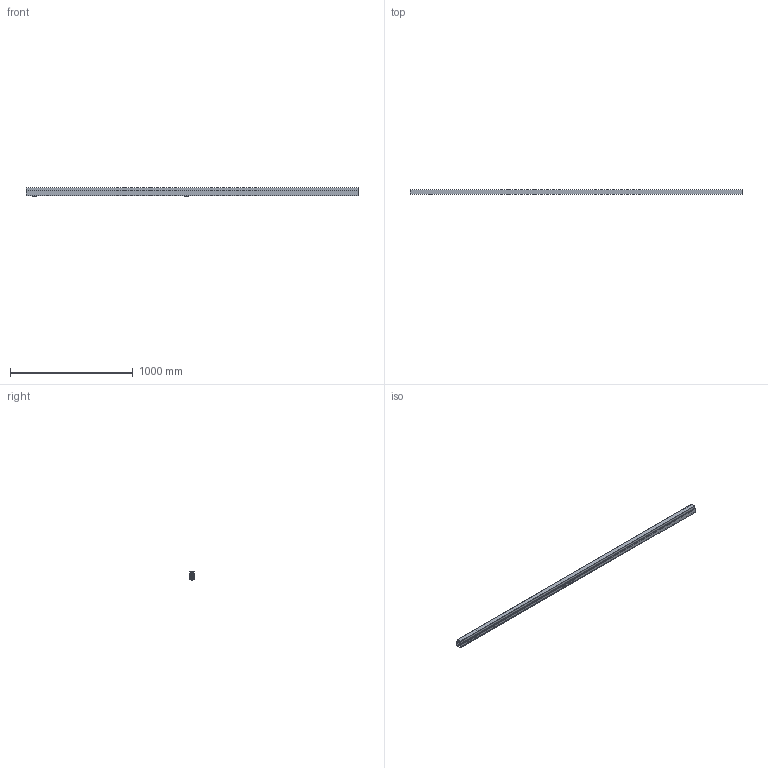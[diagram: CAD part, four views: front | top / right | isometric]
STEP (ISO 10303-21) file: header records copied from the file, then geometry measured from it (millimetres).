
FILE_DESCRIPTION(('STEP AP242'),'1');
FILE_NAME('OPO_65.084.02.stp','2026-02-23T17:27:49',(' '),(' '),'Spatial InterOp 3D',' ',' ');
FILE_SCHEMA(('AP242_MANAGED_MODEL_BASED_3D_ENGINEERING_MIM_LF {1 0 10303 442 1 1 4}'));
Length unit declared in the file: millimetre
Products named in the file (11): Zeichnung1; OPO_65.084.02_Magnetantrieb_Teil1; OPO_65.084.02_Magnetantrieb_Teil2; OPO_65.084.02_Magnetantrieb_Teil3; OPO_65.084.02_Magnetantrieb_Teil4; OPO_65.084.02_Magnetantrieb_Teil5; OPO_65.084.02_Magnetantrieb_Teil6; OPO_65.084.02_Magnetantrieb_Teil7; OPO_65.084.02_Magnetantrieb_Teil8; OPO_65.084.32; AutoCreatedBlock_10E
Assembly tree (11 placements, depth 2):
  Zeichnung1
    OPO_65.084.02_Magnetantrieb_Teil1
    OPO_65.084.02_Magnetantrieb_Teil2
    OPO_65.084.02_Magnetantrieb_Teil3
    OPO_65.084.02_Magnetantrieb_Teil4
    OPO_65.084.02_Magnetantrieb_Teil5  x2
    OPO_65.084.02_Magnetantrieb_Teil6
    OPO_65.084.02_Magnetantrieb_Teil7
    OPO_65.084.02_Magnetantrieb_Teil8
    OPO_65.084.32
    AutoCreatedBlock_10E
Bounding box: 2700 x 40 x 69.6 mm (x, y, z)
Volume: 2408337.3 mm3; surface area: 1407332.3 mm2
Topology: 54 solids, 54 shells, 1255 faces, 3309 edges, 2194 vertices
Faces by surface type: plane 772, cylinder 481, cone 2
Entity records: 46327 total; most frequent: CARTESIAN_POINT 6830, DIRECTION 6301, ORIENTED_EDGE 6158, EDGE_CURVE 3079, LINE 2155, VECTOR 2155, AXIS2_PLACEMENT_3D 2073, VERTEX_POINT 2042
